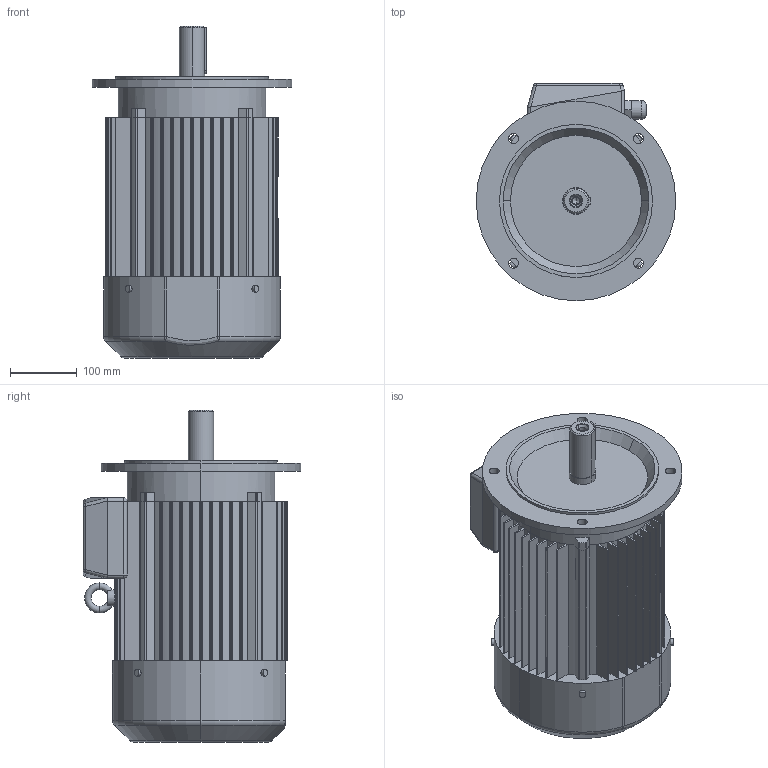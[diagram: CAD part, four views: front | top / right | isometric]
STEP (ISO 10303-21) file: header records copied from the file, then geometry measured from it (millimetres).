
FILE_DESCRIPTION (( 'STEP AP203' ), '1' );
FILE_NAME ('SKg 132S-2B,M-B5.STEP', '2010-02-09T12:37:29', ( 'INDUKTA' ), ( 'CANTONI MOTOR' ), 'SwSTEP 2.0', 'SolidWorks 2003064', '' );
FILE_SCHEMA (( 'CONFIG_CONTROL_DESIGN' ));
Length unit declared in the file: millimetre
Products named in the file (1): SKg 132S-2B,M-B5
Bounding box: 300 x 327 x 499 mm (x, y, z)
Volume: 19933409.3 mm3; surface area: 1059338.2 mm2
Topology: 12 solids, 12 shells, 492 faces, 1322 edges, 850 vertices
Faces by surface type: plane 231, cylinder 181, bspline 43, cone 14, torus 13, sphere 10
Entity records: 19021 total; most frequent: CARTESIAN_POINT 6705, ORIENTED_EDGE 2620, DIRECTION 2489, EDGE_CURVE 1310, VERTEX_POINT 850, AXIS2_PLACEMENT_3D 850, LINE 789, VECTOR 789
